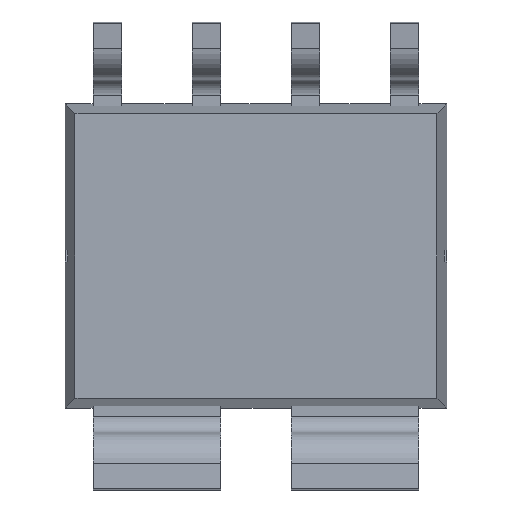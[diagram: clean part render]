
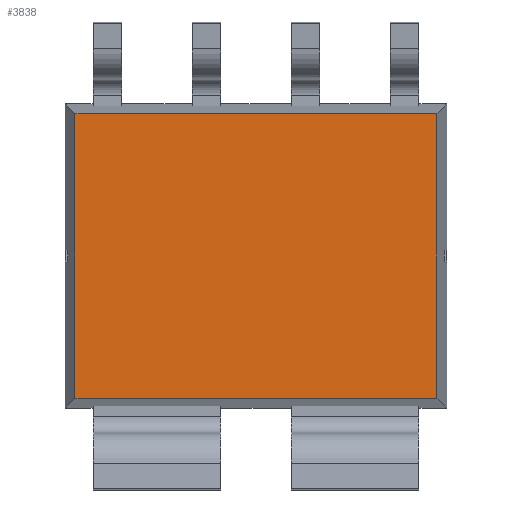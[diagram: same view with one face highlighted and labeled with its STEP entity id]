
A CAD part, front view. The second image highlights one B-rep face of the part: STEP entity #3838.
In plain terms, the highlighted planar face has unit normal (0, -1, 0).
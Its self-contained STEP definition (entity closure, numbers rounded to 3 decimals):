
#131 = VECTOR ( 'NONE', #4016, 1000. ) ;
#265 = CARTESIAN_POINT ( 'NONE',  ( 0., -0.787, -1.825 ) ) ;
#281 = LINE ( 'NONE', #4853, #131 ) ;
#366 = EDGE_CURVE ( 'NONE', #1809, #915, #3164, .T. ) ;
#568 = AXIS2_PLACEMENT_3D ( 'NONE', #1358, #3430, #5102 ) ;
#572 = CARTESIAN_POINT ( 'NONE',  ( 2.32, -0.787, 1.825 ) ) ;
#710 = VERTEX_POINT ( 'NONE', #5137 ) ;
#895 = ORIENTED_EDGE ( 'NONE', *, *, #2916, .F. ) ;
#915 = VERTEX_POINT ( 'NONE', #4021 ) ;
#996 = CARTESIAN_POINT ( 'NONE',  ( 2.32, -0.787, 0. ) ) ;
#1067 = VERTEX_POINT ( 'NONE', #572 ) ;
#1078 = LINE ( 'NONE', #996, #1216 ) ;
#1104 = DIRECTION ( 'NONE',  ( 0., 0., -1. ) ) ;
#1216 = VECTOR ( 'NONE', #1104, 1000. ) ;
#1288 = EDGE_CURVE ( 'NONE', #915, #710, #281, .T. ) ;
#1358 = CARTESIAN_POINT ( 'NONE',  ( 0., -0.787, 0. ) ) ;
#1764 = PLANE ( 'NONE',  #568 ) ;
#1809 = VERTEX_POINT ( 'NONE', #3980 ) ;
#2916 = EDGE_CURVE ( 'NONE', #710, #1067, #4739, .T. ) ;
#2957 = EDGE_CURVE ( 'NONE', #1067, #1809, #1078, .T. ) ;
#3164 = LINE ( 'NONE', #265, #3369 ) ;
#3288 = EDGE_LOOP ( 'NONE', ( #3308, #895, #4179, #5274 ) ) ;
#3308 = ORIENTED_EDGE ( 'NONE', *, *, #2957, .F. ) ;
#3369 = VECTOR ( 'NONE', #3971, 1000. ) ;
#3430 = DIRECTION ( 'NONE',  ( 0., 1., 0. ) ) ;
#3838 = ADVANCED_FACE ( 'NONE', ( #3841 ), #1764, .F. ) ;
#3841 = FACE_OUTER_BOUND ( 'NONE', #3288, .T. ) ;
#3906 = DIRECTION ( 'NONE',  ( 1., 0., 0. ) ) ;
#3971 = DIRECTION ( 'NONE',  ( -1., 0., 0. ) ) ;
#3980 = CARTESIAN_POINT ( 'NONE',  ( 2.32, -0.787, -1.825 ) ) ;
#4016 = DIRECTION ( 'NONE',  ( 0., 0., 1. ) ) ;
#4021 = CARTESIAN_POINT ( 'NONE',  ( -2.32, -0.787, -1.825 ) ) ;
#4179 = ORIENTED_EDGE ( 'NONE', *, *, #1288, .F. ) ;
#4713 = VECTOR ( 'NONE', #3906, 1000. ) ;
#4739 = LINE ( 'NONE', #5173, #4713 ) ;
#4853 = CARTESIAN_POINT ( 'NONE',  ( -2.32, -0.787, 0. ) ) ;
#5102 = DIRECTION ( 'NONE',  ( 1., 0., 0. ) ) ;
#5137 = CARTESIAN_POINT ( 'NONE',  ( -2.32, -0.787, 1.825 ) ) ;
#5173 = CARTESIAN_POINT ( 'NONE',  ( 0., -0.787, 1.825 ) ) ;
#5274 = ORIENTED_EDGE ( 'NONE', *, *, #366, .F. ) ;
